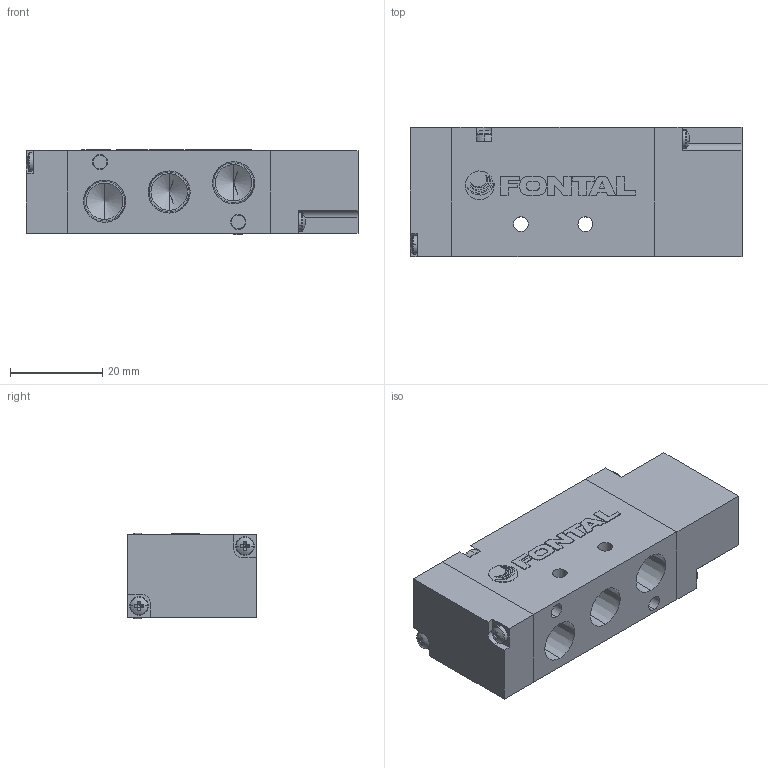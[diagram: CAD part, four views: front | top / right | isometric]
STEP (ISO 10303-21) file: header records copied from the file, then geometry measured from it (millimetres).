
FILE_DESCRIPTION (( 'STEP AP203' ), '1' );
FILE_NAME ('YCS2413-01.STEP', '2016-01-13T18:18:14', ( '' ), ( '' ), 'SwSTEP 2.0', 'SolidWorks 2014', '' );
FILE_SCHEMA (( 'CONFIG_CONTROL_DESIGN' ));
Length unit declared in the file: millimetre
Products named in the file (9): ISO 7045 - M2 x 10; ISO 7045 - M3 x 20; PC13-3-3413; YCS2413-01; PC13-MARK; VCS2413-右側; PC13-2; PC13-左側; VCS2413-1
Assembly tree (12 placements, depth 3):
  YCS2413-01
    PC13-3-3413
    PC13-左側
      PC13-2
      ISO 7045 - M2 x 10  x2
    PC13-MARK
    ISO 7045 - M3 x 20  x2
    VCS2413-右側
      VCS2413-1
      ISO 7045 - M2 x 10  x2
Bounding box: 72.07 x 28 x 18.6 mm (x, y, z)
Volume: 29654.5 mm3; surface area: 14051.6 mm2
Topology: 16 solids, 16 shells, 451 faces, 1101 edges, 677 vertices
Faces by surface type: plane 237, cone 90, cylinder 80, torus 24, sphere 12, bspline 8
Entity records: 9386 total; most frequent: CARTESIAN_POINT 1594, DIRECTION 1463, ORIENTED_EDGE 1358, EDGE_CURVE 679, AXIS2_PLACEMENT_3D 538, VERTEX_POINT 437, LINE 387, VECTOR 387
